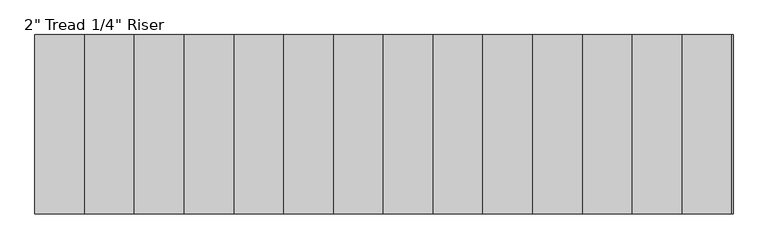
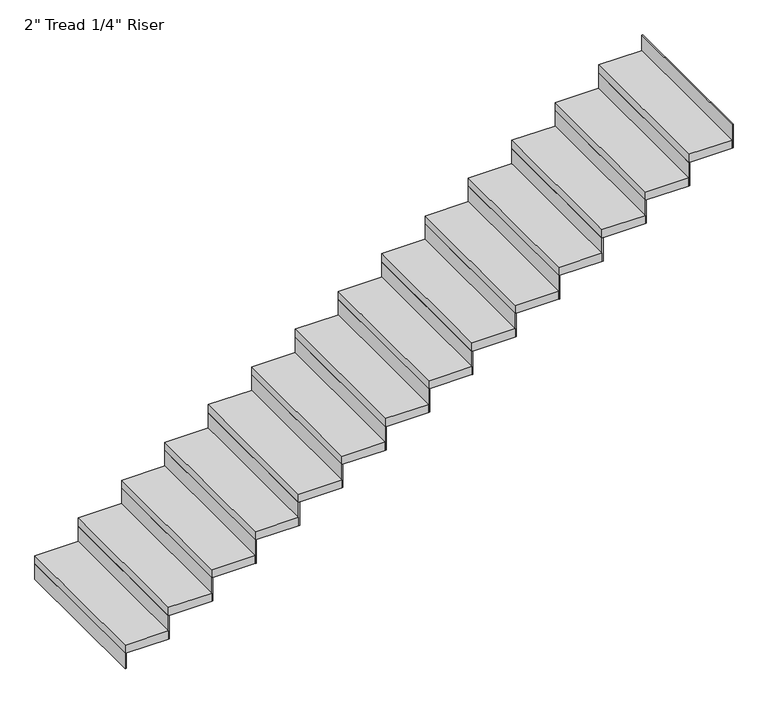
"""IFC4 building model written with IfcOpenShell, lengths in millimetres: stair flight geometry."""

from ifc_helpers import new_model, si_unit, frame, origin, origin_with_axes, place, context, project, spatial, polyline, outline, extrude, source, transform, mapped, element, save


def stair_flight_46d78ab3(model_context):
    return source(origin(), model_context, "Body", "SweptSolid", [
        extrude(outline(polyline([(-2451.0963139, 36015.7361774), (-2457.4463139, 36015.7361774), (-2457.4463139, 36930.1361774), (-2451.0963139, 36930.1361774), (-2451.0963139, 36015.7361774)])), origin_with_axes(), (0.0, 0.0, 1.0), 94.3428571),
        extrude(outline(polyline([(-2203.4463139, 36930.1361774), (-2203.4463139, 36015.7361774), (-2457.4463139, 36015.7361774), (-2457.4463139, 36930.1361774), (-2203.4463139, 36930.1361774)])), frame((0.0, 0.0, 94.3428571), z_axis=(0.0, 0.0, 1.0), x_axis=(1.0, 0.0, 0.0)), (0.0, 0.0, 1.0), 50.8),
        extrude(outline(polyline([(-2197.0963139, 36015.7361774), (-2203.4463139, 36015.7361774), (-2203.4463139, 36930.1361774), (-2197.0963139, 36930.1361774), (-2197.0963139, 36015.7361774)])), frame((0.0, 0.0, 94.3428571), z_axis=(0.0, 0.0, 1.0), x_axis=(1.0, 0.0, 0.0)), (0.0, 0.0, 1.0), 145.1428571),
        extrude(outline(polyline([(-1949.4463139, 36930.1361774), (-1949.4463139, 36015.7361774), (-2203.4463139, 36015.7361774), (-2203.4463139, 36930.1361774), (-1949.4463139, 36930.1361774)])), frame((0.0, 0.0, 239.4857143), z_axis=(0.0, 0.0, 1.0), x_axis=(1.0, 0.0, 0.0)), (0.0, 0.0, 1.0), 50.8),
        extrude(outline(polyline([(-1943.0963139, 36015.7361774), (-1949.4463139, 36015.7361774), (-1949.4463139, 36930.1361774), (-1943.0963139, 36930.1361774), (-1943.0963139, 36015.7361774)])), frame((0.0, 0.0, 239.4857143), z_axis=(0.0, 0.0, 1.0), x_axis=(1.0, 0.0, 0.0)), (0.0, 0.0, 1.0), 145.1428571),
        extrude(outline(polyline([(-1695.4463139, 36930.1361774), (-1695.4463139, 36015.7361774), (-1949.4463139, 36015.7361774), (-1949.4463139, 36930.1361774), (-1695.4463139, 36930.1361774)])), frame((0.0, 0.0, 384.6285714), z_axis=(0.0, 0.0, 1.0), x_axis=(1.0, 0.0, 0.0)), (0.0, 0.0, 1.0), 50.8),
        extrude(outline(polyline([(-1689.0963139, 36015.7361774), (-1695.4463139, 36015.7361774), (-1695.4463139, 36930.1361774), (-1689.0963139, 36930.1361774), (-1689.0963139, 36015.7361774)])), frame((0.0, 0.0, 384.6285714), z_axis=(0.0, 0.0, 1.0), x_axis=(1.0, 0.0, 0.0)), (0.0, 0.0, 1.0), 145.1428571),
        extrude(outline(polyline([(-1441.4463139, 36930.1361774), (-1441.4463139, 36015.7361774), (-1695.4463139, 36015.7361774), (-1695.4463139, 36930.1361774), (-1441.4463139, 36930.1361774)])), frame((0.0, 0.0, 529.7714286), z_axis=(0.0, 0.0, 1.0), x_axis=(1.0, 0.0, 0.0)), (0.0, 0.0, 1.0), 50.8),
        extrude(outline(polyline([(-1435.0963139, 36015.7361774), (-1441.4463139, 36015.7361774), (-1441.4463139, 36930.1361774), (-1435.0963139, 36930.1361774), (-1435.0963139, 36015.7361774)])), frame((0.0, 0.0, 529.7714286), z_axis=(0.0, 0.0, 1.0), x_axis=(1.0, 0.0, 0.0)), (0.0, 0.0, 1.0), 145.1428571),
        extrude(outline(polyline([(-1187.4463139, 36930.1361774), (-1187.4463139, 36015.7361774), (-1441.4463139, 36015.7361774), (-1441.4463139, 36930.1361774), (-1187.4463139, 36930.1361774)])), frame((0.0, 0.0, 674.9142857), z_axis=(0.0, 0.0, 1.0), x_axis=(1.0, 0.0, 0.0)), (0.0, 0.0, 1.0), 50.8),
        extrude(outline(polyline([(-1181.0963139, 36015.7361774), (-1187.4463139, 36015.7361774), (-1187.4463139, 36930.1361774), (-1181.0963139, 36930.1361774), (-1181.0963139, 36015.7361774)])), frame((0.0, 0.0, 674.9142857), z_axis=(0.0, 0.0, 1.0), x_axis=(1.0, 0.0, 0.0)), (0.0, 0.0, 1.0), 145.1428571),
        extrude(outline(polyline([(-933.4463139, 36930.1361774), (-933.4463139, 36015.7361774), (-1187.4463139, 36015.7361774), (-1187.4463139, 36930.1361774), (-933.4463139, 36930.1361774)])), frame((0.0, 0.0, 820.0571429), z_axis=(0.0, 0.0, 1.0), x_axis=(1.0, 0.0, 0.0)), (0.0, 0.0, 1.0), 50.8),
        extrude(outline(polyline([(-927.0963139, 36015.7361774), (-933.4463139, 36015.7361774), (-933.4463139, 36930.1361774), (-927.0963139, 36930.1361774), (-927.0963139, 36015.7361774)])), frame((0.0, 0.0, 820.0571429), z_axis=(0.0, 0.0, 1.0), x_axis=(1.0, 0.0, 0.0)), (0.0, 0.0, 1.0), 145.1428571),
        extrude(outline(polyline([(-679.4463139, 36930.1361774), (-679.4463139, 36015.7361774), (-933.4463139, 36015.7361774), (-933.4463139, 36930.1361774), (-679.4463139, 36930.1361774)])), frame((0.0, 0.0, 965.2), z_axis=(0.0, 0.0, 1.0), x_axis=(1.0, 0.0, 0.0)), (0.0, 0.0, 1.0), 50.8),
        extrude(outline(polyline([(-673.0963139, 36015.7361774), (-679.4463139, 36015.7361774), (-679.4463139, 36930.1361774), (-673.0963139, 36930.1361774), (-673.0963139, 36015.7361774)])), frame((0.0, 0.0, 965.2), z_axis=(0.0, 0.0, 1.0), x_axis=(1.0, 0.0, 0.0)), (0.0, 0.0, 1.0), 145.1428571),
        extrude(outline(polyline([(-425.4463139, 36930.1361774), (-425.4463139, 36015.7361774), (-679.4463139, 36015.7361774), (-679.4463139, 36930.1361774), (-425.4463139, 36930.1361774)])), frame((0.0, 0.0, 1110.3428571), z_axis=(0.0, 0.0, 1.0), x_axis=(1.0, 0.0, 0.0)), (0.0, 0.0, 1.0), 50.8),
        extrude(outline(polyline([(-419.0963139, 36015.7361774), (-425.4463139, 36015.7361774), (-425.4463139, 36930.1361774), (-419.0963139, 36930.1361774), (-419.0963139, 36015.7361774)])), frame((0.0, 0.0, 1110.3428571), z_axis=(0.0, 0.0, 1.0), x_axis=(1.0, 0.0, 0.0)), (0.0, 0.0, 1.0), 145.1428571),
        extrude(outline(polyline([(-171.4463139, 36930.1361774), (-171.4463139, 36015.7361774), (-425.4463139, 36015.7361774), (-425.4463139, 36930.1361774), (-171.4463139, 36930.1361774)])), frame((0.0, 0.0, 1255.4857143), z_axis=(0.0, 0.0, 1.0), x_axis=(1.0, 0.0, 0.0)), (0.0, 0.0, 1.0), 50.8),
        extrude(outline(polyline([(-165.0963139, 36015.7361774), (-171.4463139, 36015.7361774), (-171.4463139, 36930.1361774), (-165.0963139, 36930.1361774), (-165.0963139, 36015.7361774)])), frame((0.0, 0.0, 1255.4857143), z_axis=(0.0, 0.0, 1.0), x_axis=(1.0, 0.0, 0.0)), (0.0, 0.0, 1.0), 145.1428571),
        extrude(outline(polyline([(82.5536861, 36930.1361774), (82.5536861, 36015.7361774), (-171.4463139, 36015.7361774), (-171.4463139, 36930.1361774), (82.5536861, 36930.1361774)])), frame((0.0, 0.0, 1400.6285714), z_axis=(0.0, 0.0, 1.0), x_axis=(1.0, 0.0, 0.0)), (0.0, 0.0, 1.0), 50.8),
        extrude(outline(polyline([(88.9036861, 36015.7361774), (82.5536861, 36015.7361774), (82.5536861, 36930.1361774), (88.9036861, 36930.1361774), (88.9036861, 36015.7361774)])), frame((0.0, 0.0, 1400.6285714), z_axis=(0.0, 0.0, 1.0), x_axis=(1.0, 0.0, 0.0)), (0.0, 0.0, 1.0), 145.1428571),
        extrude(outline(polyline([(336.5536861, 36930.1361774), (336.5536861, 36015.7361774), (82.5536861, 36015.7361774), (82.5536861, 36930.1361774), (336.5536861, 36930.1361774)])), frame((0.0, 0.0, 1545.7714286), z_axis=(0.0, 0.0, 1.0), x_axis=(1.0, 0.0, 0.0)), (0.0, 0.0, 1.0), 50.8),
        extrude(outline(polyline([(342.9036861, 36015.7361774), (336.5536861, 36015.7361774), (336.5536861, 36930.1361774), (342.9036861, 36930.1361774), (342.9036861, 36015.7361774)])), frame((0.0, 0.0, 1545.7714286), z_axis=(0.0, 0.0, 1.0), x_axis=(1.0, 0.0, 0.0)), (0.0, 0.0, 1.0), 145.1428571),
        extrude(outline(polyline([(590.5536861, 36930.1361774), (590.5536861, 36015.7361774), (336.5536861, 36015.7361774), (336.5536861, 36930.1361774), (590.5536861, 36930.1361774)])), frame((0.0, 0.0, 1690.9142857), z_axis=(0.0, 0.0, 1.0), x_axis=(1.0, 0.0, 0.0)), (0.0, 0.0, 1.0), 50.8),
        extrude(outline(polyline([(596.9036861, 36015.7361774), (590.5536861, 36015.7361774), (590.5536861, 36930.1361774), (596.9036861, 36930.1361774), (596.9036861, 36015.7361774)])), frame((0.0, 0.0, 1690.9142857), z_axis=(0.0, 0.0, 1.0), x_axis=(1.0, 0.0, 0.0)), (0.0, 0.0, 1.0), 145.1428571),
        extrude(outline(polyline([(844.5536861, 36930.1361774), (844.5536861, 36015.7361774), (590.5536861, 36015.7361774), (590.5536861, 36930.1361774), (844.5536861, 36930.1361774)])), frame((0.0, 0.0, 1836.0571429), z_axis=(0.0, 0.0, 1.0), x_axis=(1.0, 0.0, 0.0)), (0.0, 0.0, 1.0), 50.8),
        extrude(outline(polyline([(850.9036861, 36015.7361774), (844.5536861, 36015.7361774), (844.5536861, 36930.1361774), (850.9036861, 36930.1361774), (850.9036861, 36015.7361774)])), frame((0.0, 0.0, 1836.0571429), z_axis=(0.0, 0.0, 1.0), x_axis=(1.0, 0.0, 0.0)), (0.0, 0.0, 1.0), 145.1428571),
        extrude(outline(polyline([(1104.9036861, 36015.7361774), (1098.5536861, 36015.7361774), (1098.5536861, 36930.1361774), (1104.9036861, 36930.1361774), (1104.9036861, 36015.7361774)])), frame((0.0, 0.0, 1981.2), z_axis=(0.0, 0.0, 1.0), x_axis=(1.0, 0.0, 0.0)), (0.0, 0.0, 1.0), 145.1428571),
        extrude(outline(polyline([(1098.5536861, 36930.1361774), (1098.5536861, 36015.7361774), (844.5536861, 36015.7361774), (844.5536861, 36930.1361774), (1098.5536861, 36930.1361774)])), frame((0.0, 0.0, 1981.2), z_axis=(0.0, 0.0, 1.0), x_axis=(1.0, 0.0, 0.0)), (0.0, 0.0, 1.0), 50.8),
    ])


if __name__ == "__main__":
    model = new_model("IFC4")
    model_context = context("Model", 3, world=origin())
    ifc_project = project(units=[si_unit("LENGTHUNIT", "METRE", prefix="MILLI")], contexts=[model_context])
    site = spatial("IfcSite", under=ifc_project)
    building = spatial("IfcBuilding", under=site)
    placement = place(None, origin())
    stair_flight_shape = stair_flight_46d78ab3(model_context)
    element("IfcStairFlight", 1, ObjectType="2\" Tread 1/4\" Riser", at=placement, inside=building, context=model_context, shape_type="MappedRepresentation", body=[
        mapped(stair_flight_shape, transform((0.0, 0.0, 0.0), x_axis=(1.0, 0.0, 0.0), y_axis=(0.0, 1.0, 0.0), z_axis=(0.0, 0.0, 1.0))),
    ])
    save(model, "model.ifc")
